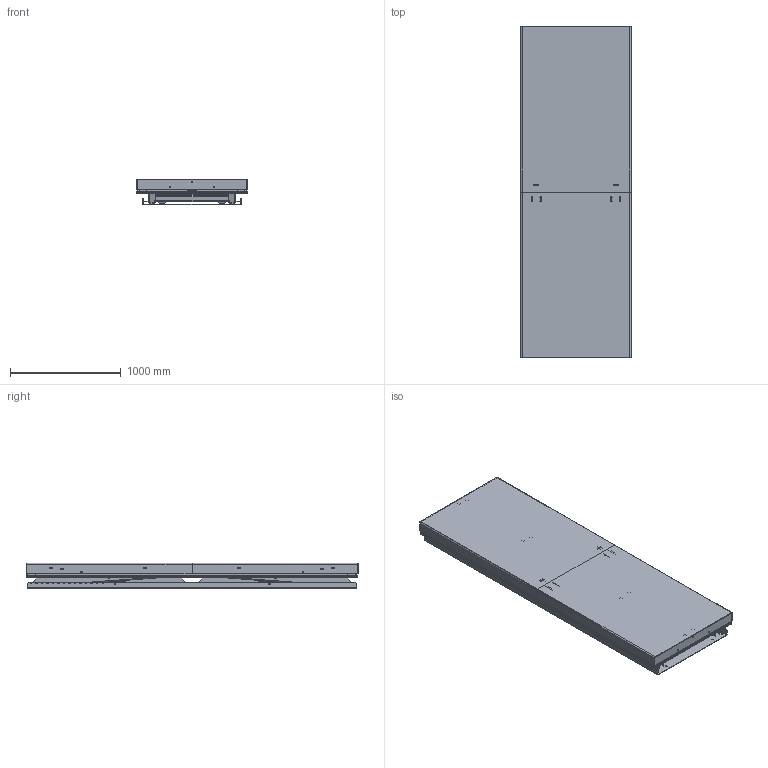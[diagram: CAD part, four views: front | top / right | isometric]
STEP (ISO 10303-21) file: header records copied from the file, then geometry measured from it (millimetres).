
FILE_DESCRIPTION(/* description */ ('TBH 4000 (3000x1000)'),/* implementation_level */ '2;1');
FILE_NAME(/* name */ 'C:\Autodesk_VaultWork\Ritningar\STP\60326_Closed-Height.stp',/* time_stamp */ '2016-12-19T11:38:53+01:00',/* author */ ('JOHSO'),/* organization */ (''),/* preprocessor_version */ 'ST-DEVELOPER v16.5',/* originating_system */ 'Autodesk Inventor 2017',/* authorisation */ '');
FILE_SCHEMA (('AUTOMOTIVE_DESIGN { 1 0 10303 214 3 1 1 }'));
Products named in the file (31): 60326.tmp; 603257; 603256; 44870; 603258; 603259; 603260; 45259; 608321; 603235; 80131; 45387; 36617; 36617_1; 36616; 36613-2; 82148-1310; 82159 - 660; 36615; 36613-1; 82148-1310_1; 82732 - 478; 31766-3000x1000; 42289-953; 42289-2973; 42330; 42331; 33990; 43476; 43481; 80473
Assembly tree (82 placements, depth 5):
  60326.tmp
    603257
      603256
      45259  x4
      44870  x4
    603258
      603259
      603260
      45259  x2
      608321  x2
      45387  x12
      603235  x4
      80131  x8
    36617
      36616
        36613-2  x2
          82148-1310
        82159 - 660
      36615
        36613-1  x2
          82148-1310_1
        82732 - 478
    36617_1
      36616
        36613-2  x2
          82148-1310
        82159 - 660
      36615
        36613-1  x2
          82148-1310_1
        82732 - 478
    31766-3000x1000
      42289-953  x2
      42289-2973  x2
      42330  x4
      42331  x4
      33990  x2
      43476  x4
      43481  x4
      80473  x4
Bounding box: 1000 x 3002.5 x 230 mm (x, y, z)
Volume: 50013565 mm3; surface area: 21189237.1 mm2
Topology: 77 solids, 85 shells, 5230 faces, 14378 edges, 9392 vertices
Faces by surface type: plane 2674, cylinder 1832, bspline 486, cone 126, torus 64, sphere 48
Full cylindrical faces by diameter (mm): 0.474 x2, 1 x4, 3 x4, 3.141 x4, 3.2 x4, 4 x16, 4.3 x4, 4.9 x2, 5 x4, 5.2 x6, 5.3 x2, 6.647 x4, 6.8 x16, 7.4 x16, 7.6 x4, 8 x16, 8.5 x4, 10 x6, 10.5 x20, 11 x2, 11.63 x8, 12 x4, 12.5 x6, 13 x4, 13.5 x14, 14.2 x32, 16 x8, 28.1 x6, 40.2 x8, 60 x8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
Entity records: 91490 total; most frequent: CARTESIAN_POINT 22759, ORIENTED_EDGE 14052, DIRECTION 13469, EDGE_CURVE 7020, VERTEX_POINT 4705, AXIS2_PLACEMENT_3D 4569, LINE 4331, VECTOR 4331
